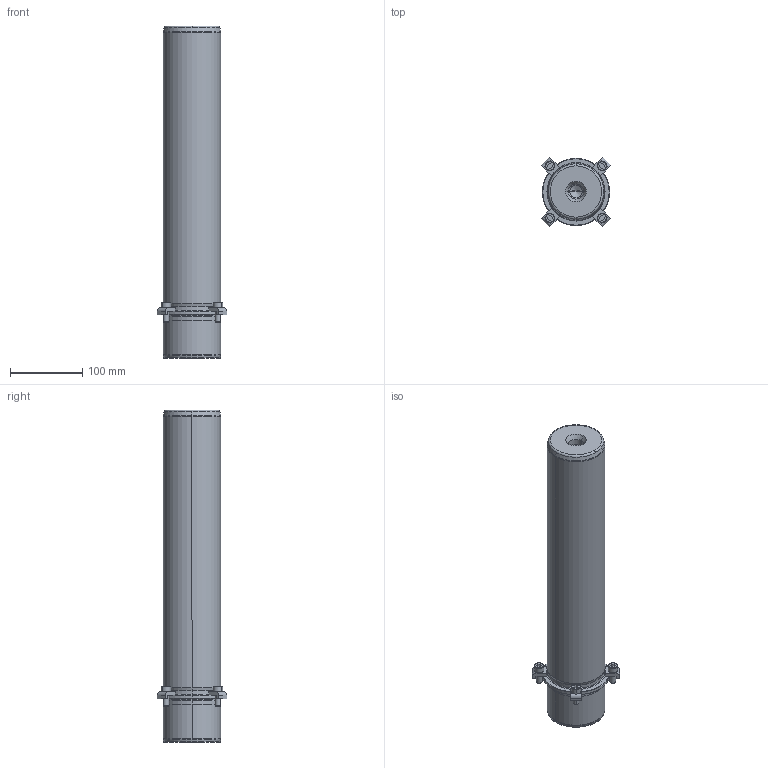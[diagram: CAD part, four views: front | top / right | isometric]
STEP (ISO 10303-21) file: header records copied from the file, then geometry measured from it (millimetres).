
FILE_DESCRIPTION((''),'2;1');
FILE_NAME('P21_080_400.stp','2008-12-19T11:31:27',(''),(''),'Mechanical Desktop 2009','Mechanical Desktop 2009',', , ');
FILE_SCHEMA(('CONFIG_CONTROL_DESIGN'));
Length unit declared in the file: millimetre
Products named in the file (2): Product; blmdl1
Assembly tree (1 placements, depth 2):
  Product
    blmdl1
Bounding box: 96.52 x 96.52 x 460 mm (x, y, z)
Volume: 2297753.8 mm3; surface area: 143458.6 mm2
Topology: 9 solids, 9 shells, 195 faces, 477 edges, 309 vertices
Faces by surface type: plane 77, cylinder 52, cone 34, torus 16, bspline 16
Entity records: 6547 total; most frequent: CARTESIAN_POINT 1683, DIRECTION 1078, ORIENTED_EDGE 946, EDGE_CURVE 473, AXIS2_PLACEMENT_3D 424, VERTEX_POINT 309, CIRCLE 243, VECTOR 230
